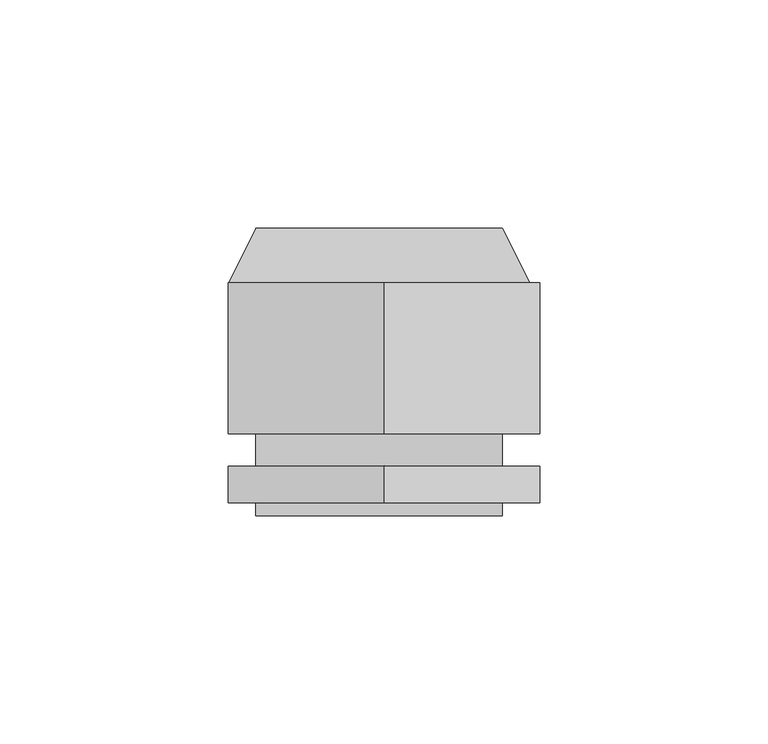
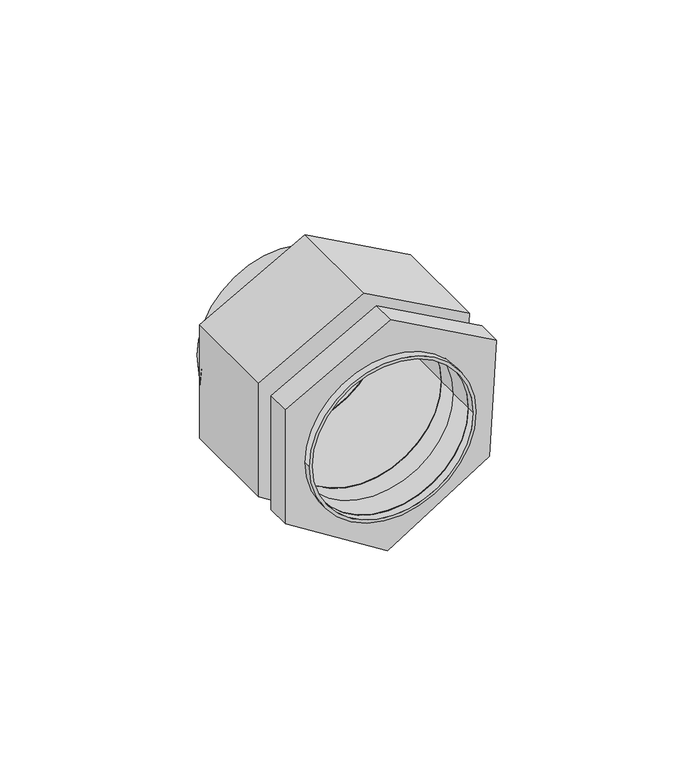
"""IFC4 building model written with IfcOpenShell, lengths in millimetres: cable carrier fitting geometry, Сальник_PGL_D_11-48_IP54 : Сальник PG 42 диаметр проводника 32-38мм IP54."""

from ifc_helpers import new_model, si_unit, point, frame, frame_2d, origin, place, context, project, spatial, polyline, circle_curve, trimmed, segment, composite_curve, outline, extrude, source, transform, mapped, element, save
from ifc_brep_helpers import plane_surface, revolved_surface, advanced_brep


def cable_carrier_fitting_ab0baff4(model_context):
    return source(origin(), model_context, "Body", "SolidModel", [
        advanced_brep(
        [(-25.9094864, 0.0, 0.0057257), (-25.9094864, -12.0, 0.0057257), (26.0905136, -12.0, 0.0057257), (26.0905136, 0.0, 0.0057257), (-32.9010286, -12.0, 0.0), (33.0989714, -12.0, 0.0), (-26.9010286, 0.0, 0.0), (27.0989714, 0.0, 0.0)],
        [
            (0, 1),
            (1, 2, circle_curve(frame((0.0905136, -12.0, 0.0057257), z_axis=(0.0, -1.0, 0.0), x_axis=(1.0, 0.0, 0.0)), 26.0)),
            (2, 3),
            (3, 0, circle_curve(frame((0.0905136, 0.0, 0.0057257), z_axis=(0.0, 1.0, 0.0), x_axis=(1.0, 0.0, 0.0)), 26.0)),
            (0, 3, circle_curve(frame((0.0905136, 0.0, 0.0057257), z_axis=(0.0, 1.0, 0.0), x_axis=(1.0, 0.0, 0.0)), 26.0)),
            (2, 1, circle_curve(frame((0.0905136, -12.0, 0.0057257), z_axis=(0.0, -1.0, 0.0), x_axis=(1.0, 0.0, 0.0)), 26.0)),
            (4, 5, circle_curve(frame((0.0989714, -12.0, 0.0), z_axis=(0.0, -1.0, 0.0), x_axis=(-1.0, 0.0, 0.0)), 33.0)),
            (5, 4, circle_curve(frame((0.0989714, -12.0, 0.0), z_axis=(0.0, -1.0, 0.0), x_axis=(1.0, 0.0, 0.0)), 33.0)),
            (6, 7, circle_curve(frame((0.0989714, 0.0, 0.0), z_axis=(0.0, 1.0, 0.0), x_axis=(1.0, 0.0, 0.0)), 27.0)),
            (7, 6, circle_curve(frame((0.0989714, 0.0, 0.0), z_axis=(0.0, 1.0, 0.0), x_axis=(-1.0, 0.0, 0.0)), 27.0)),
            (4, 6),
            (7, 5),
        ],
        [
            revolved_surface(polyline([(26.0905136, -12.0, 0.0057257), (26.0905136, 0.0, 0.0057257)]), (0.0905136, 9.180646, 0.0057257), (0.0, -1.0, 0.0)),
            plane_surface(frame((0.0989714, -12.0, 0.0), z_axis=(0.0, -1.0, 0.0), x_axis=(0.0, 0.0, -1.0))),
            plane_surface(frame((0.0989714, 0.0, 0.0), z_axis=(0.0, 1.0, 0.0), x_axis=(0.0, 0.0, -1.0))),
            revolved_surface(polyline([(27.0989714, 0.0, 0.0), (33.0989714, -12.0, 0.0)]), (0.0989714, 54.0, 0.0), (0.0, -1.0, 0.0)),
            revolved_surface(polyline([(-26.9010286, 0.0, 0.0), (-32.9010286, -12.0, 0.0)]), (0.0989714, 54.0, 0.0), (0.0, -1.0, 0.0)),
        ],
        [
            (0, [[1, 2, 3, 4]]),
            (0, [[-1, 5, -3, 6]]),
            (1, [[7, 8], [-2, -6]]),
            (2, [[9, 10], [-4, -5]]),
            (3, [[-7, 11, -10, 12]]),
            (4, [[-8, -12, -9, -11]]),
        ],
    ),
        extrude(outline(polyline([(-19.005319, 33.0), (19.9282733, 35.274949), (38.8196689, 1.1558169), (19.994681, -33.0), (-19.005319, -33.0), (-39.7899287, 0.0), (-19.005319, 33.0)]), holes=[composite_curve([segment(trimmed(circle_curve(frame_2d((0.0057257, 0.0905136)), 26.0), [point((0.0057257, 26.0905136))], [point((0.0057257, -25.9094864))], True, "CARTESIAN"), True, "CONTINUOUS"), segment(trimmed(circle_curve(frame_2d((0.0057257, 0.0905136)), 26.0), [point((0.0057257, -25.9094864))], [point((0.0057257, 26.0905136))], True, "CARTESIAN"), True, "CONTINUOUS")], self_intersect=False)]), frame((0.0, -45.0, 0.0), z_axis=(0.0, 1.0, 0.0), x_axis=(0.0, 0.0, 1.0)), (0.0, 0.0, 1.0), 33.0),
        extrude(outline(polyline([(-19.005319, 33.0), (19.9282733, 35.274949), (38.8196689, 1.1558169), (19.994681, -33.0), (-19.005319, -33.0), (-39.7899287, 0.0), (-19.005319, 33.0)]), holes=[composite_curve([segment(trimmed(circle_curve(frame_2d((0.0057257, 0.0905136)), 26.0), [point((0.0057257, 26.0905136))], [point((0.0057257, -25.9094864))], True, "CARTESIAN"), True, "CONTINUOUS"), segment(trimmed(circle_curve(frame_2d((0.0057257, 0.0905136)), 26.0), [point((0.0057257, -25.9094864))], [point((0.0057257, 26.0905136))], True, "CARTESIAN"), True, "CONTINUOUS")], self_intersect=False)]), frame((0.0, -60.1018563, 0.0), z_axis=(0.0, 1.0, 0.0), x_axis=(0.0, 0.0, 1.0)), (0.0, 0.0, 1.0), 8.0),
        extrude(outline(composite_curve([segment(trimmed(circle_curve(frame_2d((0.0032191, 0.0900025)), 27.0), [point((0.0032191, -26.9099975))], [point((0.0032191, 27.0900025))], False, "CARTESIAN"), True, "CONTINUOUS"), segment(trimmed(circle_curve(frame_2d((0.0032191, 0.0900025)), 27.0), [point((0.0032191, 27.0900025))], [point((0.0032191, -26.9099975))], False, "CARTESIAN"), True, "CONTINUOUS")], self_intersect=False), holes=[composite_curve([segment(trimmed(circle_curve(frame_2d((0.0057257, 0.0905136)), 26.0), [point((0.0057257, 26.0905136))], [point((0.0057257, -25.9094864))], True, "CARTESIAN"), True, "CONTINUOUS"), segment(trimmed(circle_curve(frame_2d((0.0057257, 0.0905136)), 26.0), [point((0.0057257, -25.9094864))], [point((0.0057257, 26.0905136))], True, "CARTESIAN"), True, "CONTINUOUS")], self_intersect=False)]), frame((0.0, -63.0, 0.0), z_axis=(0.0, 1.0, 0.0), x_axis=(0.0, 0.0, 1.0)), (0.0, 0.0, 1.0), 63.0),
    ])


if __name__ == "__main__":
    model = new_model("IFC4")
    model_context = context("Model", 3, world=origin())
    ifc_project = project(units=[si_unit("LENGTHUNIT", "METRE", prefix="MILLI")], contexts=[model_context])
    site = spatial("IfcSite", under=ifc_project)
    building = spatial("IfcBuilding", under=site)
    placement = place(None, origin())
    cable_carrier_fitting_shape = cable_carrier_fitting_ab0baff4(model_context)
    element("IfcCableCarrierFitting", 1, ObjectType="Сальник_PGL_D_11-48_IP54 : Сальник PG 42 диаметр проводника 32-38мм IP54", at=placement, inside=building, context=model_context, shape_type="MappedRepresentation", body=[
        mapped(cable_carrier_fitting_shape, transform((0.0, 0.0, 0.0), x_axis=(1.0, 0.0, 0.0), y_axis=(0.0, 1.0, 0.0), z_axis=(0.0, 0.0, 1.0))),
    ])
    save(model, "model.ifc")
